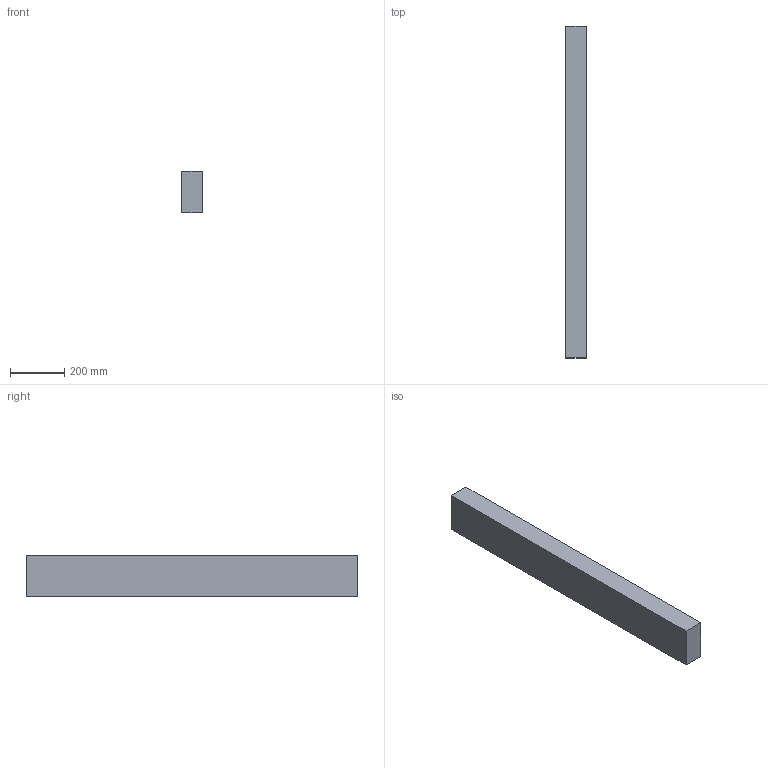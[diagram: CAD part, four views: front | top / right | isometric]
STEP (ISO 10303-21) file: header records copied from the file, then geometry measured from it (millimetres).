
FILE_DESCRIPTION(/* description */ (''),/* implementation_level */ '2;1');
FILE_NAME(/* name */ '3x6x48',/* time_stamp */ '2024-09-20T11:43:29-05:00',/* author */ (''),/* organization */ (''),/* preprocessor_version */ 'ST-DEVELOPER v19.2',/* originating_system */ 'Rhino 8.5',/* authorisation */ '');
FILE_SCHEMA (('CONFIG_CONTROL_DESIGN'));
Length unit declared in the file: inch
Products named in the file (1): Document
Bounding box: 76.2 x 1219.2 x 152.4 mm (x, y, z)
Volume: 14158423.3 mm3; surface area: 580644 mm2
Topology: 1 solids, 1 shells, 6 faces, 12 edges, 8 vertices
Faces by surface type: plane 6
Entity records: 226 total; most frequent: CARTESIAN_POINT 40, ORIENTED_EDGE 24, EDGE_CURVE 12, B_SPLINE_CURVE_WITH_KNOTS 12, DIRECTION 10, VERTEX_POINT 8, AXIS2_PLACEMENT_3D 8, ORGANIZATION 7
